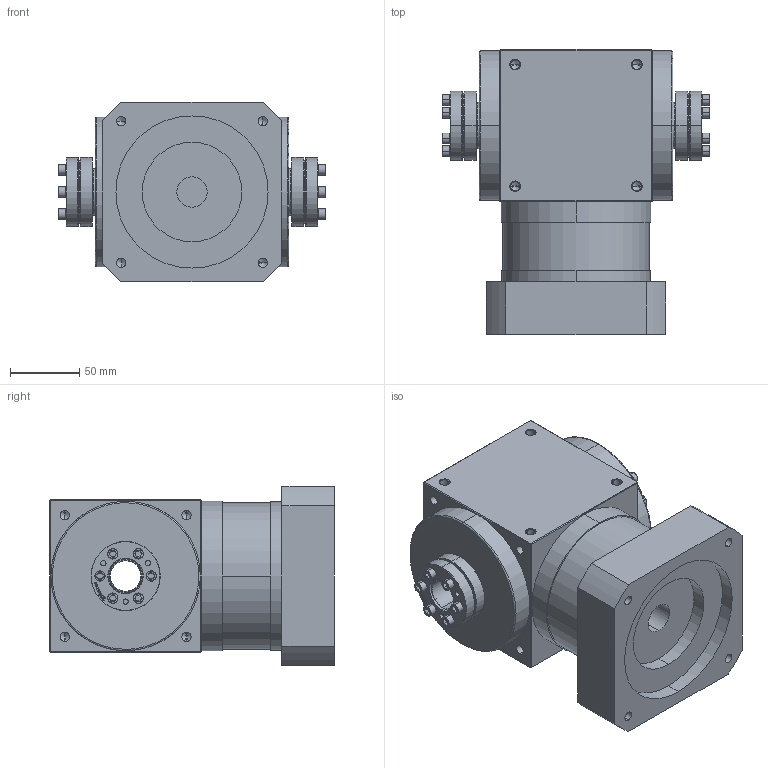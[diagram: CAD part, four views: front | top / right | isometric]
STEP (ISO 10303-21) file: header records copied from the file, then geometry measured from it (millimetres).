
FILE_DESCRIPTION (( 'STEP AP214' ), '1' );
FILE_NAME ('AT110-FC-001 22-110-145-M8.STEP', '2021-04-24T06:30:19', ( 'Microsoft' ), ( 'Microsoft China' ), 'SwSTEP 2.0', 'SolidWorks 2016', '' );
FILE_SCHEMA (( 'AUTOMOTIVE_DESIGN' ));
Length unit declared in the file: millimetre
Products named in the file (3): AT110-FC-001 22-110-145-M8; AT110-FC-001--22-110-145; 83_24x50
Assembly tree (3 placements, depth 2):
  AT110-FC-001 22-110-145-M8
    AT110-FC-001--22-110-145
    83_24x50  x2
Bounding box: 193 x 206 x 130 mm (x, y, z)
Volume: 2591254.3 mm3; surface area: 200746.5 mm2
Topology: 21 solids, 21 shells, 1007 faces, 2334 edges, 1376 vertices
Faces by surface type: cylinder 452, plane 263, cone 200, torus 80, bspline 12
Entity records: 17879 total; most frequent: CARTESIAN_POINT 3896, DIRECTION 2972, ORIENTED_EDGE 2824, EDGE_CURVE 1412, AXIS2_PLACEMENT_3D 1144, VERTEX_POINT 850, EDGE_LOOP 716, VECTOR 684
